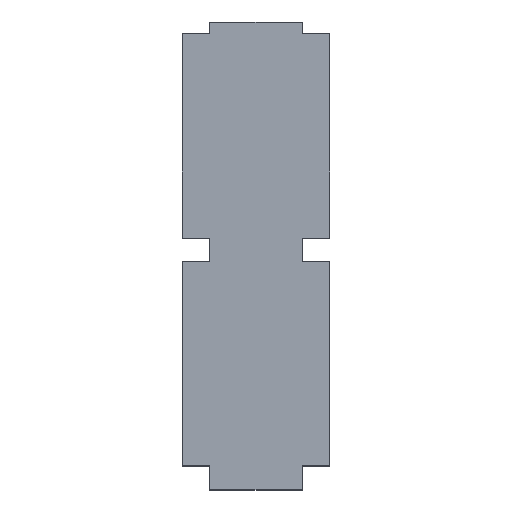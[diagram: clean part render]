
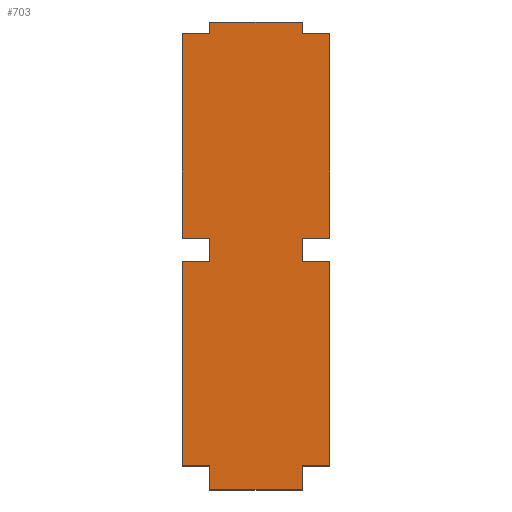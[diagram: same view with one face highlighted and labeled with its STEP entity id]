
A CAD part, top view. The second image highlights one B-rep face of the part: STEP entity #703.
In plain terms, the highlighted planar face has unit normal (0, 0, 1).
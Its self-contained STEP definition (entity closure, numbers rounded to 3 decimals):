
#70=CARTESIAN_POINT('Vertex',(44.6,292.5,205.6)) ;
#73=CARTESIAN_POINT('Line Origine',(54.8,292.5,205.6)) ;
#77=CARTESIAN_POINT('Vertex',(65.,292.5,205.6)) ;
#108=CARTESIAN_POINT('Vertex',(44.6,287.3,205.6)) ;
#111=CARTESIAN_POINT('Line Origine',(44.6,289.9,205.6)) ;
#139=CARTESIAN_POINT('Vertex',(32.6,287.3,205.6)) ;
#142=CARTESIAN_POINT('Line Origine',(38.6,287.3,205.6)) ;
#170=CARTESIAN_POINT('Vertex',(32.6,197.7,205.6)) ;
#173=CARTESIAN_POINT('Line Origine',(32.6,242.5,205.6)) ;
#201=CARTESIAN_POINT('Vertex',(44.6,197.7,205.6)) ;
#204=CARTESIAN_POINT('Line Origine',(38.6,197.7,205.6)) ;
#227=CARTESIAN_POINT('Vertex',(44.6,187.3,205.6)) ;
#230=CARTESIAN_POINT('Line Origine',(44.6,192.5,205.6)) ;
#258=CARTESIAN_POINT('Vertex',(32.6,187.3,205.6)) ;
#261=CARTESIAN_POINT('Line Origine',(38.6,187.3,205.6)) ;
#284=CARTESIAN_POINT('Vertex',(32.6,97.7,205.6)) ;
#287=CARTESIAN_POINT('Line Origine',(32.6,142.5,205.6)) ;
#315=CARTESIAN_POINT('Vertex',(44.6,97.7,205.6)) ;
#318=CARTESIAN_POINT('Line Origine',(38.6,97.7,205.6)) ;
#341=CARTESIAN_POINT('Vertex',(44.6,87.185,205.6)) ;
#344=CARTESIAN_POINT('Line Origine',(44.6,92.442,205.6)) ;
#372=CARTESIAN_POINT('Vertex',(65.,87.185,205.6)) ;
#375=CARTESIAN_POINT('Line Origine',(54.8,87.185,205.6)) ;
#398=CARTESIAN_POINT('Vertex',(85.4,87.185,205.6)) ;
#401=CARTESIAN_POINT('Line Origine',(75.2,87.185,205.6)) ;
#429=CARTESIAN_POINT('Vertex',(85.4,97.7,205.6)) ;
#432=CARTESIAN_POINT('Line Origine',(85.4,92.442,205.6)) ;
#455=CARTESIAN_POINT('Vertex',(97.4,97.7,205.6)) ;
#458=CARTESIAN_POINT('Line Origine',(91.4,97.7,205.6)) ;
#486=CARTESIAN_POINT('Vertex',(97.4,187.3,205.6)) ;
#489=CARTESIAN_POINT('Line Origine',(97.4,142.5,205.6)) ;
#512=CARTESIAN_POINT('Vertex',(85.4,187.3,205.6)) ;
#515=CARTESIAN_POINT('Line Origine',(91.4,187.3,205.6)) ;
#538=CARTESIAN_POINT('Vertex',(85.4,197.7,205.6)) ;
#541=CARTESIAN_POINT('Line Origine',(85.4,192.5,205.6)) ;
#564=CARTESIAN_POINT('Vertex',(97.4,197.7,205.6)) ;
#567=CARTESIAN_POINT('Line Origine',(91.4,197.7,205.6)) ;
#590=CARTESIAN_POINT('Vertex',(97.4,287.3,205.6)) ;
#593=CARTESIAN_POINT('Line Origine',(97.4,242.5,205.6)) ;
#616=CARTESIAN_POINT('Vertex',(85.4,287.3,205.6)) ;
#619=CARTESIAN_POINT('Line Origine',(91.4,287.3,205.6)) ;
#642=CARTESIAN_POINT('Vertex',(85.4,292.5,205.6)) ;
#645=CARTESIAN_POINT('Line Origine',(85.4,289.9,205.6)) ;
#662=CARTESIAN_POINT('Line Origine',(75.2,292.5,205.6)) ;
#674=CARTESIAN_POINT('Axis2P3D Location',(0.,0.,205.6)) ;
#74=DIRECTION('Vector Direction',(1.,0.,0.)) ;
#112=DIRECTION('Vector Direction',(0.,1.,0.)) ;
#143=DIRECTION('Vector Direction',(1.,0.,0.)) ;
#174=DIRECTION('Vector Direction',(0.,1.,0.)) ;
#205=DIRECTION('Vector Direction',(-1.,0.,0.)) ;
#231=DIRECTION('Vector Direction',(0.,1.,0.)) ;
#262=DIRECTION('Vector Direction',(1.,0.,0.)) ;
#288=DIRECTION('Vector Direction',(0.,1.,0.)) ;
#319=DIRECTION('Vector Direction',(-1.,0.,0.)) ;
#345=DIRECTION('Vector Direction',(0.,1.,0.)) ;
#376=DIRECTION('Vector Direction',(-1.,0.,0.)) ;
#402=DIRECTION('Vector Direction',(-1.,0.,0.)) ;
#433=DIRECTION('Vector Direction',(0.,-1.,0.)) ;
#459=DIRECTION('Vector Direction',(-1.,0.,0.)) ;
#490=DIRECTION('Vector Direction',(0.,-1.,0.)) ;
#516=DIRECTION('Vector Direction',(1.,0.,0.)) ;
#542=DIRECTION('Vector Direction',(0.,-1.,0.)) ;
#568=DIRECTION('Vector Direction',(-1.,0.,0.)) ;
#594=DIRECTION('Vector Direction',(0.,-1.,0.)) ;
#620=DIRECTION('Vector Direction',(1.,0.,0.)) ;
#646=DIRECTION('Vector Direction',(0.,-1.,0.)) ;
#663=DIRECTION('Vector Direction',(1.,0.,0.)) ;
#675=DIRECTION('Axis2P3D Direction',(-0.,0.,1.)) ;
#676=DIRECTION('Axis2P3D XDirection',(1.,0.,0.)) ;
#677=AXIS2_PLACEMENT_3D('Plane Axis2P3D',#674,#675,#676) ;
#680=ORIENTED_EDGE('',*,*,#79,.T.) ;
#681=ORIENTED_EDGE('',*,*,#115,.T.) ;
#682=ORIENTED_EDGE('',*,*,#146,.T.) ;
#683=ORIENTED_EDGE('',*,*,#177,.T.) ;
#684=ORIENTED_EDGE('',*,*,#208,.T.) ;
#685=ORIENTED_EDGE('',*,*,#234,.T.) ;
#686=ORIENTED_EDGE('',*,*,#265,.T.) ;
#687=ORIENTED_EDGE('',*,*,#291,.T.) ;
#688=ORIENTED_EDGE('',*,*,#322,.T.) ;
#689=ORIENTED_EDGE('',*,*,#348,.T.) ;
#690=ORIENTED_EDGE('',*,*,#379,.T.) ;
#691=ORIENTED_EDGE('',*,*,#405,.T.) ;
#692=ORIENTED_EDGE('',*,*,#436,.T.) ;
#693=ORIENTED_EDGE('',*,*,#462,.T.) ;
#694=ORIENTED_EDGE('',*,*,#493,.T.) ;
#695=ORIENTED_EDGE('',*,*,#519,.T.) ;
#696=ORIENTED_EDGE('',*,*,#545,.T.) ;
#697=ORIENTED_EDGE('',*,*,#571,.T.) ;
#698=ORIENTED_EDGE('',*,*,#597,.T.) ;
#699=ORIENTED_EDGE('',*,*,#623,.T.) ;
#700=ORIENTED_EDGE('',*,*,#649,.T.) ;
#701=ORIENTED_EDGE('',*,*,#666,.T.) ;
#75=VECTOR('Line Direction',#74,1.) ;
#113=VECTOR('Line Direction',#112,1.) ;
#144=VECTOR('Line Direction',#143,1.) ;
#175=VECTOR('Line Direction',#174,1.) ;
#206=VECTOR('Line Direction',#205,1.) ;
#232=VECTOR('Line Direction',#231,1.) ;
#263=VECTOR('Line Direction',#262,1.) ;
#289=VECTOR('Line Direction',#288,1.) ;
#320=VECTOR('Line Direction',#319,1.) ;
#346=VECTOR('Line Direction',#345,1.) ;
#377=VECTOR('Line Direction',#376,1.) ;
#403=VECTOR('Line Direction',#402,1.) ;
#434=VECTOR('Line Direction',#433,1.) ;
#460=VECTOR('Line Direction',#459,1.) ;
#491=VECTOR('Line Direction',#490,1.) ;
#517=VECTOR('Line Direction',#516,1.) ;
#543=VECTOR('Line Direction',#542,1.) ;
#569=VECTOR('Line Direction',#568,1.) ;
#595=VECTOR('Line Direction',#594,1.) ;
#621=VECTOR('Line Direction',#620,1.) ;
#647=VECTOR('Line Direction',#646,1.) ;
#664=VECTOR('Line Direction',#663,1.) ;
#703=ADVANCED_FACE('Body.2',(#702),#678,.T.) ;
#79=EDGE_CURVE('',#78,#71,#76,.F.) ;
#115=EDGE_CURVE('',#71,#109,#114,.F.) ;
#146=EDGE_CURVE('',#109,#140,#145,.F.) ;
#177=EDGE_CURVE('',#140,#171,#176,.F.) ;
#208=EDGE_CURVE('',#171,#202,#207,.F.) ;
#234=EDGE_CURVE('',#202,#228,#233,.F.) ;
#265=EDGE_CURVE('',#228,#259,#264,.F.) ;
#291=EDGE_CURVE('',#259,#285,#290,.F.) ;
#322=EDGE_CURVE('',#285,#316,#321,.F.) ;
#348=EDGE_CURVE('',#316,#342,#347,.F.) ;
#379=EDGE_CURVE('',#342,#373,#378,.F.) ;
#405=EDGE_CURVE('',#373,#399,#404,.F.) ;
#436=EDGE_CURVE('',#399,#430,#435,.F.) ;
#462=EDGE_CURVE('',#430,#456,#461,.F.) ;
#493=EDGE_CURVE('',#456,#487,#492,.F.) ;
#519=EDGE_CURVE('',#487,#513,#518,.F.) ;
#545=EDGE_CURVE('',#513,#539,#544,.F.) ;
#571=EDGE_CURVE('',#539,#565,#570,.F.) ;
#597=EDGE_CURVE('',#565,#591,#596,.F.) ;
#623=EDGE_CURVE('',#591,#617,#622,.F.) ;
#649=EDGE_CURVE('',#617,#643,#648,.F.) ;
#666=EDGE_CURVE('',#643,#78,#665,.F.) ;
#679=EDGE_LOOP('',(#680,#681,#682,#683,#684,#685,#686,#687,#688,#689,#690,#691,#692,#693,#694,#695,#696,#697,#698,#699,#700,#701)) ;
#702=FACE_OUTER_BOUND('',#679,.T.) ;
#76=LINE('Line',#73,#75) ;
#114=LINE('Line',#111,#113) ;
#145=LINE('Line',#142,#144) ;
#176=LINE('Line',#173,#175) ;
#207=LINE('Line',#204,#206) ;
#233=LINE('Line',#230,#232) ;
#264=LINE('Line',#261,#263) ;
#290=LINE('Line',#287,#289) ;
#321=LINE('Line',#318,#320) ;
#347=LINE('Line',#344,#346) ;
#378=LINE('Line',#375,#377) ;
#404=LINE('Line',#401,#403) ;
#435=LINE('Line',#432,#434) ;
#461=LINE('Line',#458,#460) ;
#492=LINE('Line',#489,#491) ;
#518=LINE('Line',#515,#517) ;
#544=LINE('Line',#541,#543) ;
#570=LINE('Line',#567,#569) ;
#596=LINE('Line',#593,#595) ;
#622=LINE('Line',#619,#621) ;
#648=LINE('Line',#645,#647) ;
#665=LINE('Line',#662,#664) ;
#678=PLANE('Plane',#677) ;
#71=VERTEX_POINT('',#70) ;
#78=VERTEX_POINT('',#77) ;
#109=VERTEX_POINT('',#108) ;
#140=VERTEX_POINT('',#139) ;
#171=VERTEX_POINT('',#170) ;
#202=VERTEX_POINT('',#201) ;
#228=VERTEX_POINT('',#227) ;
#259=VERTEX_POINT('',#258) ;
#285=VERTEX_POINT('',#284) ;
#316=VERTEX_POINT('',#315) ;
#342=VERTEX_POINT('',#341) ;
#373=VERTEX_POINT('',#372) ;
#399=VERTEX_POINT('',#398) ;
#430=VERTEX_POINT('',#429) ;
#456=VERTEX_POINT('',#455) ;
#487=VERTEX_POINT('',#486) ;
#513=VERTEX_POINT('',#512) ;
#539=VERTEX_POINT('',#538) ;
#565=VERTEX_POINT('',#564) ;
#591=VERTEX_POINT('',#590) ;
#617=VERTEX_POINT('',#616) ;
#643=VERTEX_POINT('',#642) ;
